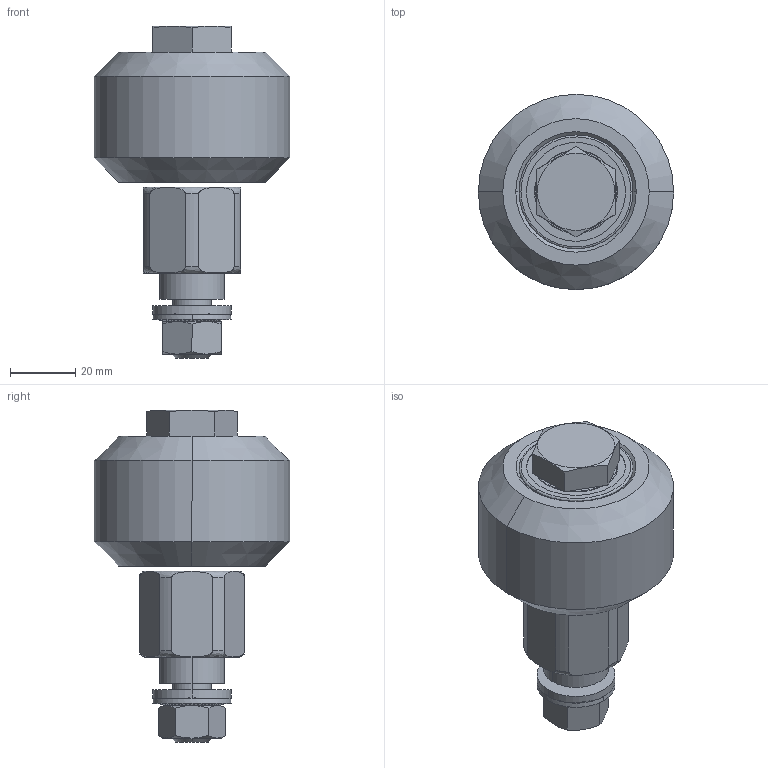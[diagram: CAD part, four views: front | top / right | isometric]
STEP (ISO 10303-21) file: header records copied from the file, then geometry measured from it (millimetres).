
FILE_DESCRIPTION (( 'STEP AP203' ), '1' );
FILE_NAME ('084.530.004.STEP', '2015-05-06T06:45:25', ( '' ), ( '' ), 'SwSTEP 2.0', 'SolidWorks 2012', '' );
FILE_SCHEMA (( 'CONFIG_CONTROL_DESIGN' ));
Length unit declared in the file: millimetre
Products named in the file (1): 084.530.004
Bounding box: 60 x 60 x 102 mm (x, y, z)
Surface area: 21215.6 mm2 (no closed solid volume)
Topology: 0 solids, 11 shells, 102 faces, 459 edges, 372 vertices
Faces by surface type: plane 40, cone 32, cylinder 22, bspline 8
Entity records: 5679 total; most frequent: CARTESIAN_POINT 2144, DIRECTION 699, ORIENTED_EDGE 650, EDGE_CURVE 459, VERTEX_POINT 372, AXIS2_PLACEMENT_3D 308, CIRCLE 213, B_SPLINE_CURVE_WITH_KNOTS 151
